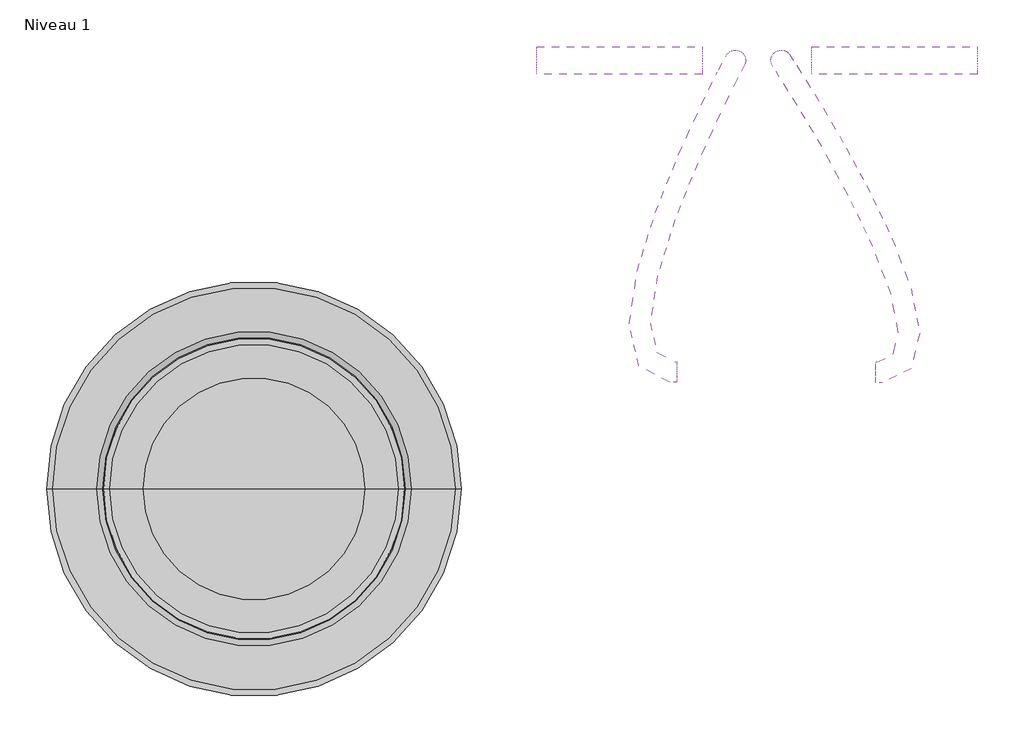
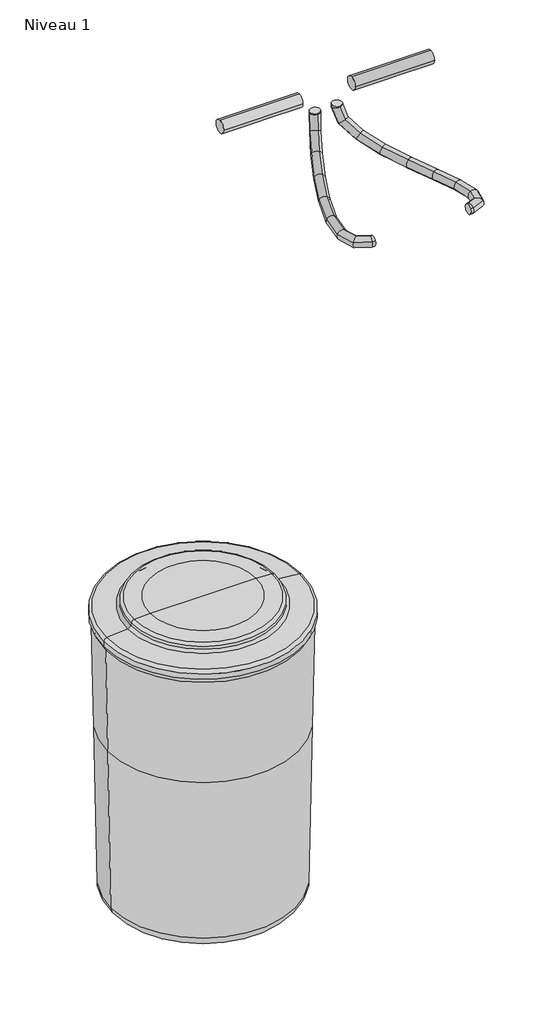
# One storey, incomplete: 4 pipe segments, 1 proxy.
"""IFC4 building model written with IfcOpenShell, lengths in millimetres."""

from ifc_helpers import new_model, si_unit, point, frame, frame_2d, origin, place, context, project, spatial, circle_curve, ellipse_curve, trimmed, segment, composite_curve, outline, extrude, transform, mapped, element, save
from ifc_brep_helpers import plane_surface, cylinder_surface, advanced_brep
from components import proxy_780_x_530_mm_158101ac

model = new_model("IFC4")

# Units and contexts
model_context = context("Model", 3, world=origin())
ifc_project = project(units=[si_unit("LENGTHUNIT", "METRE", prefix="MILLI")], contexts=[model_context])

# Site, building, storey
site = spatial("IfcSite", under=ifc_project)
building = spatial("IfcBuilding", under=site)
storey = spatial("IfcBuildingStorey", under=building, Name="Niveau 1", Elevation=0.0)

# Proxy
placement = place(None, origin())
proxy_780_x_530_mm_shape = proxy_780_x_530_mm_158101ac(model_context)
element("IfcBuildingElementProxy", 1, Name="BWT_Bac à sel type 1 : 780 x 530 mm", ObjectType="BWT_Bac à sel type 1 : 780 x 530 mm", at=placement, inside=storey, context=model_context, shape_type="MappedRepresentation", body=[
    mapped(proxy_780_x_530_mm_shape, transform((17.0911206, -1088.3928891, 0.0), x_axis=(1.0, 0.0, 0.0), y_axis=(0.0, 1.0, 0.0), z_axis=(0.0, 0.0, 1.0))),
])

# Pipe segments
element("IfcPipeSegment", 2, ObjectType="Souple - Circulaire", at=placement, inside=storey, context=model_context, shape_type="AdvancedBrep", body=[
    advanced_brep(
    [(585.819652, -571.1251876, 1557.9427811), (598.319652, -583.6251876, 1557.9427811), (610.819652, -571.1251876, 1557.9427811), (598.319652, -558.6251876, 1557.9427811), (585.819652, -571.1251876, 1554.2978151), (598.319652, -583.6251876, 1555.5389128), (610.819652, -571.1251876, 1551.5888047), (598.319652, -558.6251876, 1550.347707), (527.3866255, -958.6013716, 1469.5910155), (527.3866255, -953.6687392, 1452.6154702), (527.3866255, -936.6931939, 1457.5481026), (527.3866255, -941.6258263, 1474.5236478), (577.9825695, -586.1431844, 1520.1195489), (591.0916235, -597.4760701, 1524.0167894), (601.7711696, -588.4645584, 1512.1275079), (588.6621156, -577.1316727, 1508.2302674), (557.688701, -627.0942536, 1492.836612), (571.8547345, -636.2942566, 1498.1548485), (579.790576, -632.8192763, 1482.5769494), (565.6245425, -623.6192733, 1477.2587129), (530.4368891, -686.7547538, 1475.5955503), (545.3454934, -694.3290981, 1481.3835797), (551.9523785, -693.7635097, 1464.9649064), (537.0437742, -686.1891654, 1459.176877), (502.7269698, -755.9913366, 1466.7328696), (518.2625342, -761.9991452, 1472.7214246), (524.330091, -762.7811338, 1456.1302537), (508.7945265, -756.7733251, 1450.1416987), (480.9439408, -826.0267208, 1464.0145251), (497.1727087, -829.8057864, 1470.0895862), (503.1120652, -830.9999563, 1453.482417), (486.8832972, -827.2208908, 1447.4073558), (471.4880347, -889.0457406, 1465.1329128), (488.4113734, -888.1958296, 1471.1258243), (494.4714182, -888.5856702, 1454.5043808), (477.5480795, -889.4355811, 1448.5114693), (482.7423394, -938.5809834, 1467.9330988), (497.2875007, -927.2636469, 1473.3342955), (502.5984119, -924.3562145, 1456.5264599), (488.0532506, -935.673551, 1451.1252632), (519.164947, -958.6013716, 1469.5910155), (523.416266, -941.6258263, 1474.5236478), (525.0427799, -936.6931939, 1457.5481026), (520.7914609, -953.6687392, 1452.6154702)],
    [
        (0, 1, circle_curve(frame((598.319652, -571.1251876, 1557.9427811), z_axis=(0.0, 0.0, 1.0), x_axis=(-1.0, 0.0, 0.0)), 12.5)),
        (1, 2, circle_curve(frame((598.319652, -571.1251876, 1557.9427811), z_axis=(0.0, 0.0, 1.0), x_axis=(-1.0, 0.0, 0.0)), 12.5)),
        (2, 3, circle_curve(frame((598.319652, -571.1251876, 1557.9427811), z_axis=(0.0, 0.0, 1.0), x_axis=(-1.0, 0.0, 0.0)), 12.5)),
        (3, 0, circle_curve(frame((598.319652, -571.1251876, 1557.9427811), z_axis=(0.0, 0.0, 1.0), x_axis=(-1.0, 0.0, 0.0)), 12.5)),
        (0, 4),
        (4, 5, ellipse_curve(frame((598.319652, -571.1251876, 1552.9433099), z_axis=(0.10550505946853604, 0.20217659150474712, 0.9736494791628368), x_axis=(-0.45044970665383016, -0.8631850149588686, 0.228049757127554)), 12.8382958, 12.5)),
        (5, 1),
        (5, 6, ellipse_curve(frame((598.319652, -571.1251876, 1552.9433099), z_axis=(0.10550505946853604, 0.20217659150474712, 0.9736494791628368), x_axis=(-0.45044970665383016, -0.8631850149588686, 0.228049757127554)), 12.8382958, 12.5)),
        (6, 2),
        (6, 7, ellipse_curve(frame((598.319652, -571.1251876, 1552.9433099), z_axis=(0.10550505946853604, 0.20217659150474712, 0.9736494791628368), x_axis=(-0.45044970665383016, -0.8631850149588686, 0.228049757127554)), 12.8382958, 12.5)),
        (7, 3),
        (7, 4, ellipse_curve(frame((598.319652, -571.1251876, 1552.9433099), z_axis=(0.10550505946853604, 0.20217659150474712, 0.9736494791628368), x_axis=(-0.45044970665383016, -0.8631850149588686, 0.228049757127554)), 12.8382958, 12.5)),
        (8, 9, circle_curve(frame((527.3866255, -947.6472828, 1463.569559), z_axis=(1.0, 0.0, 0.0), x_axis=(0.0, -0.87632710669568, 0.4817165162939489)), 12.5)),
        (9, 10, circle_curve(frame((527.3866255, -947.6472828, 1463.569559), z_axis=(1.0, 0.0, 0.0), x_axis=(0.0, -0.87632710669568, 0.4817165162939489)), 12.5)),
        (10, 11, circle_curve(frame((527.3866255, -947.6472828, 1463.569559), z_axis=(1.0, 0.0, 0.0), x_axis=(0.0, -0.87632710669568, 0.4817165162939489)), 12.5)),
        (11, 8, circle_curve(frame((527.3866255, -947.6472828, 1463.569559), z_axis=(1.0, 0.0, 0.0), x_axis=(0.0, -0.87632710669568, 0.4817165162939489)), 12.5)),
        (4, 12),
        (12, 13, ellipse_curve(frame((589.8768695, -587.3038714, 1516.1235284), z_axis=(0.30580634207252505, 0.6062047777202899, 0.7341650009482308), x_axis=(-0.31126846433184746, -0.6650759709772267, 0.6788121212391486)), 13.0304478, 12.5)),
        (13, 5),
        (13, 14, ellipse_curve(frame((589.8768695, -587.3038714, 1516.1235284), z_axis=(0.30580634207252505, 0.6062047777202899, 0.7341650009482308), x_axis=(-0.31126846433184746, -0.6650759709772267, 0.6788121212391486)), 13.0304478, 12.5)),
        (14, 6),
        (14, 15, ellipse_curve(frame((589.8768695, -587.3038714, 1516.1235284), z_axis=(0.30580634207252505, 0.6062047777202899, 0.7341650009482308), x_axis=(-0.31126846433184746, -0.6650759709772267, 0.6788121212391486)), 13.0304478, 12.5)),
        (15, 7),
        (15, 12, ellipse_curve(frame((589.8768695, -587.3038714, 1516.1235284), z_axis=(0.30580634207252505, 0.6062047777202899, 0.7341650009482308), x_axis=(-0.31126846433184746, -0.6650759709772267, 0.6788121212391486)), 13.0304478, 12.5)),
        (12, 16),
        (16, 17, ellipse_curve(frame((568.7396385, -629.956765, 1487.7067807), z_axis=(0.395493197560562, 0.832836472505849, 0.38725771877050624), x_axis=(-0.07303287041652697, -0.39178296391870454, 0.9171544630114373)), 12.6258506, 12.5)),
        (17, 13),
        (17, 18, ellipse_curve(frame((568.7396385, -629.956765, 1487.7067807), z_axis=(0.395493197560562, 0.832836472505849, 0.38725771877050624), x_axis=(-0.07303287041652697, -0.39178296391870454, 0.9171544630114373)), 12.6258506, 12.5)),
        (18, 14),
        (18, 19, ellipse_curve(frame((568.7396385, -629.956765, 1487.7067807), z_axis=(0.395493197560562, 0.832836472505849, 0.38725771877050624), x_axis=(-0.07303287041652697, -0.39178296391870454, 0.9171544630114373)), 12.6258506, 12.5)),
        (19, 15),
        (19, 16, ellipse_curve(frame((568.7396385, -629.956765, 1487.7067807), z_axis=(0.395493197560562, 0.832836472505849, 0.38725771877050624), x_axis=(-0.07303287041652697, -0.39178296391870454, 0.9171544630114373)), 12.6258506, 12.5)),
        (16, 20),
        (20, 21, ellipse_curve(frame((541.1946338, -690.2591318, 1470.2802283), z_axis=(0.3864398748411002, 0.9032374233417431, 0.18661827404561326), x_axis=(0.22458508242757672, -0.2883990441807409, 0.9307994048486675)), 12.5335971, 12.5)),
        (21, 17),
        (21, 22, ellipse_curve(frame((541.1946338, -690.2591318, 1470.2802283), z_axis=(0.3864398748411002, 0.9032374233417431, 0.18661827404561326), x_axis=(0.22458508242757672, -0.2883990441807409, 0.9307994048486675)), 12.5335971, 12.5)),
        (22, 18),
        (22, 23, ellipse_curve(frame((541.1946338, -690.2591318, 1470.2802283), z_axis=(0.3864398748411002, 0.9032374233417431, 0.18661827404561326), x_axis=(0.22458508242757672, -0.2883990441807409, 0.9307994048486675)), 12.5335971, 12.5)),
        (23, 19),
        (23, 20, ellipse_curve(frame((541.1946338, -690.2591318, 1470.2802283), z_axis=(0.3864398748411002, 0.9032374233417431, 0.18661827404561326), x_axis=(0.22458508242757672, -0.2883990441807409, 0.9307994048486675)), 12.5335971, 12.5)),
        (20, 24),
        (24, 25, ellipse_curve(frame((513.5285304, -759.3862352, 1461.4315617), z_axis=(0.3334154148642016, 0.9395769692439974, 0.07764843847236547), x_axis=(0.6377284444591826, -0.2854265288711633, 0.7154258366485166)), 12.5200643, 12.5)),
        (25, 21),
        (25, 26, ellipse_curve(frame((513.5285304, -759.3862352, 1461.4315617), z_axis=(0.3334154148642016, 0.9395769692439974, 0.07764843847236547), x_axis=(0.6377284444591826, -0.2854265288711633, 0.7154258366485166)), 12.5200643, 12.5)),
        (26, 22),
        (26, 27, ellipse_curve(frame((513.5285304, -759.3862352, 1461.4315617), z_axis=(0.3334154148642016, 0.9395769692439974, 0.07764843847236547), x_axis=(0.6377284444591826, -0.2854265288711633, 0.7154258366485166)), 12.5200643, 12.5)),
        (27, 23),
        (27, 24, ellipse_curve(frame((513.5285304, -759.3862352, 1461.4315617), z_axis=(0.3334154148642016, 0.9395769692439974, 0.07764843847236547), x_axis=(0.6377284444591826, -0.2854265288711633, 0.7154258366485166)), 12.5200643, 12.5)),
        (24, 28),
        (28, 29, ellipse_curve(frame((492.028003, -828.5133386, 1458.748471), z_axis=(0.2233104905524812, 0.9746983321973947, 0.009776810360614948), x_axis=(0.9169149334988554, -0.21345421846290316, 0.33720068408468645)), 12.5411459, 12.5)),
        (29, 25),
        (29, 30, ellipse_curve(frame((492.028003, -828.5133386, 1458.748471), z_axis=(0.2233104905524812, 0.9746983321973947, 0.009776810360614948), x_axis=(0.9169149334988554, -0.21345421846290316, 0.33720068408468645)), 12.5411459, 12.5)),
        (30, 26),
        (30, 31, ellipse_curve(frame((492.028003, -828.5133386, 1458.748471), z_axis=(0.2233104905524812, 0.9746983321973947, 0.009776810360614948), x_axis=(0.9169149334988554, -0.21345421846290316, 0.33720068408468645)), 12.5411459, 12.5)),
        (31, 27),
        (31, 28, ellipse_curve(frame((492.028003, -828.5133386, 1458.748471), z_axis=(0.2233104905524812, 0.9746983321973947, 0.009776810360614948), x_axis=(0.9169149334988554, -0.21345421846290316, 0.33720068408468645)), 12.5411459, 12.5)),
        (28, 32),
        (32, 33, ellipse_curve(frame((482.9797264, -888.8157054, 1459.8186468), z_axis=(-0.03707187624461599, 0.9986296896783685, -0.036938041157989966), x_axis=(0.9940719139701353, 0.04063285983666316, 0.10084642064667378)), 12.721738, 12.5)),
        (33, 29),
        (33, 34, ellipse_curve(frame((482.9797264, -888.8157054, 1459.8186468), z_axis=(-0.03707187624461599, 0.9986296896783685, -0.036938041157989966), x_axis=(0.9940719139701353, 0.04063285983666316, 0.10084642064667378)), 12.721738, 12.5)),
        (34, 30),
        (34, 35, ellipse_curve(frame((482.9797264, -888.8157054, 1459.8186468), z_axis=(-0.03707187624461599, 0.9986296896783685, -0.036938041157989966), x_axis=(0.9940719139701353, 0.04063285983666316, 0.10084642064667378)), 12.721738, 12.5)),
        (35, 31),
        (35, 32, ellipse_curve(frame((482.9797264, -888.8157054, 1459.8186468), z_axis=(-0.03707187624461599, 0.9986296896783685, -0.036938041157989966), x_axis=(0.9940719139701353, 0.04063285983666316, 0.10084642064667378)), 12.721738, 12.5)),
        (32, 36),
        (36, 37, ellipse_curve(frame((492.6703757, -931.468599, 1462.2297794), z_axis=(-0.6011573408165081, 0.7974363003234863, -0.05201152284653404), x_axis=(0.7989606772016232, 0.6010975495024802, -0.01853570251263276)), 13.7018069, 12.5)),
        (37, 33),
        (37, 38, ellipse_curve(frame((492.6703757, -931.468599, 1462.2297794), z_axis=(-0.6011573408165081, 0.7974363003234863, -0.05201152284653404), x_axis=(0.7989606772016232, 0.6010975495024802, -0.01853570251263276)), 13.7018069, 12.5)),
        (38, 34),
        (38, 39, ellipse_curve(frame((492.6703757, -931.468599, 1462.2297794), z_axis=(-0.6011573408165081, 0.7974363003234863, -0.05201152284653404), x_axis=(0.7989606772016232, 0.6010975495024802, -0.01853570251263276)), 13.7018069, 12.5)),
        (39, 35),
        (39, 36, ellipse_curve(frame((492.6703757, -931.468599, 1462.2297794), z_axis=(-0.6011573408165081, 0.7974363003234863, -0.05201152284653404), x_axis=(0.7989606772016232, 0.6010975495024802, -0.01853570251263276)), 13.7018069, 12.5)),
        (36, 40),
        (40, 41, ellipse_curve(frame((522.1038635, -947.6472828, 1463.569559), z_axis=(-0.9684115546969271, 0.2485066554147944, -0.0205791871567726), x_axis=(0.24935729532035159, 0.965107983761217, -0.07992195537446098)), 12.9077353, 12.5)),
        (41, 37),
        (41, 42, ellipse_curve(frame((522.1038635, -947.6472828, 1463.569559), z_axis=(-0.9684115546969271, 0.2485066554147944, -0.0205791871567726), x_axis=(0.24935729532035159, 0.965107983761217, -0.07992195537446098)), 12.9077353, 12.5)),
        (42, 38),
        (42, 43, ellipse_curve(frame((522.1038635, -947.6472828, 1463.569559), z_axis=(-0.9684115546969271, 0.2485066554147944, -0.0205791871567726), x_axis=(0.24935729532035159, 0.965107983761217, -0.07992195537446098)), 12.9077353, 12.5)),
        (43, 39),
        (43, 40, ellipse_curve(frame((522.1038635, -947.6472828, 1463.569559), z_axis=(-0.9684115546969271, 0.2485066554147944, -0.0205791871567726), x_axis=(0.24935729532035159, 0.965107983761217, -0.07992195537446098)), 12.9077353, 12.5)),
        (40, 8),
        (11, 41),
        (10, 42),
        (9, 43),
    ],
    [
        plane_surface(frame((598.319652, -583.6251876, 1557.9427811), z_axis=(0.0, 0.0, 1.0), x_axis=(-1.0, 0.0, 0.0))),
        cylinder_surface(frame((598.319652, -571.1251876, 1557.9427811), z_axis=(0.0, 0.0, 1.0), x_axis=(-1.0, 0.0, 0.0)), 12.5),
        plane_surface(frame((527.3866255, -947.6472828, 1451.069559), z_axis=(1.0, 0.0, 0.0), x_axis=(0.0, 1.0, 0.0))),
        cylinder_surface(frame((598.319652, -571.1251876, 1552.9433099), z_axis=(0.20544989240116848, 0.3936982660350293, 0.8959866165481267), x_axis=(-0.9777373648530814, 0.04266130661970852, 0.20544989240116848)), 12.5),
        cylinder_surface(frame((589.8768695, -587.3038714, 1516.1235284), z_axis=(0.38126505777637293, 0.7693561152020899, 0.5125701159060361), x_axis=(-0.902935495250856, 0.19094224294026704, 0.3850305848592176)), 12.5),
        cylinder_surface(frame((568.7396385, -629.956765, 1487.7067807), z_axis=(0.40183702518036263, 0.8797139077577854, 0.2542251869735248), x_axis=(-0.8641968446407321, 0.27251876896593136, 0.42296256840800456)), 12.5),
        cylinder_surface(frame((541.1946338, -690.2591318, 1470.2802283), z_axis=(0.36897097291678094, 0.9219185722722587, 0.11801087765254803), x_axis=(-0.8573348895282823, 0.28855742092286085, 0.426276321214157)), 12.5),
        cylinder_surface(frame((513.5285304, -759.3862352, 1461.4315617), z_axis=(0.2967912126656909, 0.9542238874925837, 0.03703712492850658), x_axis=(-0.8695865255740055, 0.25403185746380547, 0.4234230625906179)), 12.5),
        cylinder_surface(frame((492.028003, -828.5133386, 1458.748471), z_axis=(0.14836446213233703, 0.9887770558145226, -0.017547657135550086), x_axis=(-0.8952924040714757, 0.14183167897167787, 0.42229762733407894)), 12.5),
        cylinder_surface(frame((482.9797264, -888.8157054, 1459.8186468), z_axis=(-0.2212159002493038, 0.9736703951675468, -0.05504077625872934), x_axis=(-0.8834865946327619, -0.17618923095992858, 0.43406081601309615)), 12.5),
        cylinder_surface(frame((492.6703757, -931.468599, 1462.2297794), z_axis=(-0.8756418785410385, 0.48131343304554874, -0.03985824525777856), x_axis=(-0.4409883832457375, -0.7631639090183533, 0.47234531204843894)), 12.5),
        cylinder_surface(frame((522.1038635, -947.6472828, 1463.569559), z_axis=(-1.0, 0.0, 0.0), x_axis=(0.0, -0.87632710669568, 0.4817165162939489)), 12.5),
    ],
    [
        (0, [[1, 2, 3, 4]]),
        (1, [[-1, 5, 6, 7]]),
        (1, [[-2, -7, 8, 9]]),
        (1, [[-3, -9, 10, 11]]),
        (1, [[-4, -11, 12, -5]]),
        (2, [[13, 14, 15, 16]]),
        (3, [[-6, 17, 18, 19]]),
        (3, [[-8, -19, 20, 21]]),
        (3, [[-10, -21, 22, 23]]),
        (3, [[-12, -23, 24, -17]]),
        (4, [[-18, 25, 26, 27]]),
        (4, [[-20, -27, 28, 29]]),
        (4, [[-22, -29, 30, 31]]),
        (4, [[-24, -31, 32, -25]]),
        (5, [[-26, 33, 34, 35]]),
        (5, [[-28, -35, 36, 37]]),
        (5, [[-30, -37, 38, 39]]),
        (5, [[-32, -39, 40, -33]]),
        (6, [[-34, 41, 42, 43]]),
        (6, [[-36, -43, 44, 45]]),
        (6, [[-38, -45, 46, 47]]),
        (6, [[-40, -47, 48, -41]]),
        (7, [[-42, 49, 50, 51]]),
        (7, [[-44, -51, 52, 53]]),
        (7, [[-46, -53, 54, 55]]),
        (7, [[-48, -55, 56, -49]]),
        (8, [[-50, 57, 58, 59]]),
        (8, [[-52, -59, 60, 61]]),
        (8, [[-54, -61, 62, 63]]),
        (8, [[-56, -63, 64, -57]]),
        (9, [[-58, 65, 66, 67]]),
        (9, [[-60, -67, 68, 69]]),
        (9, [[-62, -69, 70, 71]]),
        (9, [[-64, -71, 72, -65]]),
        (10, [[-66, 73, 74, 75]]),
        (10, [[-68, -75, 76, 77]]),
        (10, [[-70, -77, 78, 79]]),
        (10, [[-72, -79, 80, -73]]),
        (11, [[-74, 81, -16, 82]]),
        (11, [[-76, -82, -15, 83]]),
        (11, [[-78, -83, -14, 84]]),
        (11, [[-80, -84, -13, -81]]),
    ],
),
])
element("IfcPipeSegment", 3, ObjectType="Souple - Circulaire", at=placement, inside=storey, context=model_context, shape_type="AdvancedBrep", body=[
    advanced_brep(
    [(641.3076562, -571.1251876, 1557.88203), (653.8076562, -583.6251876, 1557.88203), (666.3076562, -571.1251876, 1557.88203), (653.8076562, -558.6251876, 1557.88203), (641.3076562, -571.1251876, 1551.8102967), (653.8076562, -583.6251876, 1555.5246367), (666.3076562, -571.1251876, 1554.7307378), (653.8076562, -558.6251876, 1551.0163978), (768.2256275, -937.4808132, 1456.2968087), (768.2256275, -954.9200331, 1453.4030895), (768.2256275, -957.8137523, 1470.8423093), (768.2256275, -940.3745324, 1473.7360285), (650.4123362, -585.1799387, 1514.6397066), (660.9919589, -594.7154826, 1526.1941416), (673.9321491, -582.8949972, 1523.6031307), (663.3525264, -573.3594533, 1512.0486958), (673.2202432, -621.6900105, 1485.5821331), (680.5610101, -626.0409111, 1501.262913), (694.3597419, -615.5947481, 1497.5781088), (687.018975, -611.2438475, 1481.8973289), (703.4427427, -672.7451317, 1467.1368313), (708.9841865, -674.0564207, 1483.9157685), (723.4510406, -664.7389224, 1479.823198), (717.9095969, -663.4276334, 1463.0442608), (736.0728417, -732.4123717, 1456.6522186), (740.7377556, -732.1208426, 1473.7128), (755.7850102, -723.8646617, 1469.4337368), (751.1200963, -724.1561908, 1452.3731555), (766.0475685, -794.6618646, 1452.1180432), (770.3001244, -793.5139782, 1469.2410005), (785.9965937, -786.6060427, 1464.8637328), (781.7440378, -787.7539291, 1447.7407755), (788.1618711, -853.0654507, 1451.6802218), (792.3032075, -851.623835, 1468.8053811), (808.8628149, -846.9954359, 1464.4110249), (804.7214785, -848.4370516, 1447.2858657), (797.2682086, -900.2284385, 1453.4532599), (801.5284044, -899.4024123, 1470.6015615), (819.1031864, -900.0317436, 1466.4048636), (814.8429906, -900.8577698, 1449.256562), (790.6061142, -927.8131629, 1455.3934975), (794.2740893, -929.4392554, 1472.7142748), (809.0501465, -941.6568419, 1469.3326645), (805.3821715, -940.0307494, 1452.0118873), (770.4865118, -937.4808132, 1456.2968087), (771.5163956, -940.3745324, 1473.7360285), (775.4255739, -957.8137523, 1470.8423093), (774.3956901, -954.9200331, 1453.4030895)],
    [
        (0, 1, circle_curve(frame((653.8076562, -571.1251876, 1557.88203), z_axis=(0.0, 0.0, 1.0), x_axis=(-1.0, 0.0, 0.0)), 12.5)),
        (1, 2, circle_curve(frame((653.8076562, -571.1251876, 1557.88203), z_axis=(0.0, 0.0, 1.0), x_axis=(-1.0, 0.0, 0.0)), 12.5)),
        (2, 3, circle_curve(frame((653.8076562, -571.1251876, 1557.88203), z_axis=(0.0, 0.0, 1.0), x_axis=(-1.0, 0.0, 0.0)), 12.5)),
        (3, 0, circle_curve(frame((653.8076562, -571.1251876, 1557.88203), z_axis=(0.0, 0.0, 1.0), x_axis=(-1.0, 0.0, 0.0)), 12.5)),
        (0, 4),
        (4, 5, ellipse_curve(frame((653.8076562, -571.1251876, 1553.2705172), z_axis=(-0.1142111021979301, 0.17630587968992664, 0.9776870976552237), x_axis=(0.5315588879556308, -0.8205590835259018, 0.21006651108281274)), 12.7852766, 12.5)),
        (5, 1),
        (5, 6, ellipse_curve(frame((653.8076562, -571.1251876, 1553.2705172), z_axis=(-0.1142111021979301, 0.17630587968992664, 0.9776870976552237), x_axis=(0.5315588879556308, -0.8205590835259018, 0.21006651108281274)), 12.7852766, 12.5)),
        (6, 2),
        (6, 7, ellipse_curve(frame((653.8076562, -571.1251876, 1553.2705172), z_axis=(-0.1142111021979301, 0.17630587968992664, 0.9776870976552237), x_axis=(0.5315588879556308, -0.8205590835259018, 0.21006651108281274)), 12.7852766, 12.5)),
        (7, 3),
        (7, 4, ellipse_curve(frame((653.8076562, -571.1251876, 1553.2705172), z_axis=(-0.1142111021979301, 0.17630587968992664, 0.9776870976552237), x_axis=(0.5315588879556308, -0.8205590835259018, 0.21006651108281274)), 12.7852766, 12.5)),
        (8, 9, circle_curve(frame((768.2256275, -947.6472828, 1463.569559), z_axis=(-1.0, 0.0, 0.0), x_axis=(0.0, 0.8133175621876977, -0.5818200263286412)), 12.5)),
        (9, 10, circle_curve(frame((768.2256275, -947.6472828, 1463.569559), z_axis=(-1.0, 0.0, 0.0), x_axis=(0.0, 0.8133175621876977, -0.5818200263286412)), 12.5)),
        (10, 11, circle_curve(frame((768.2256275, -947.6472828, 1463.569559), z_axis=(-1.0, 0.0, 0.0), x_axis=(0.0, 0.8133175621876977, -0.5818200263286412)), 12.5)),
        (11, 8, circle_curve(frame((768.2256275, -947.6472828, 1463.569559), z_axis=(-1.0, 0.0, 0.0), x_axis=(0.0, 0.8133175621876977, -0.5818200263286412)), 12.5)),
        (4, 12),
        (12, 13, ellipse_curve(frame((662.1722427, -584.0374679, 1519.1214187), z_axis=(-0.34435211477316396, 0.5446002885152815, 0.7647431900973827), x_axis=(0.3946850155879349, -0.6551100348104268, 0.6442472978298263)), 12.995109, 12.5)),
        (13, 5),
        (13, 14, ellipse_curve(frame((662.1722427, -584.0374679, 1519.1214187), z_axis=(-0.34435211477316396, 0.5446002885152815, 0.7647431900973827), x_axis=(0.3946850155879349, -0.6551100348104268, 0.6442472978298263)), 12.995109, 12.5)),
        (14, 6),
        (14, 15, ellipse_curve(frame((662.1722427, -584.0374679, 1519.1214187), z_axis=(-0.34435211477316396, 0.5446002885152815, 0.7647431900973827), x_axis=(0.3946850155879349, -0.6551100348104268, 0.6442472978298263)), 12.995109, 12.5)),
        (15, 7),
        (15, 12, ellipse_curve(frame((662.1722427, -584.0374679, 1519.1214187), z_axis=(-0.34435211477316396, 0.5446002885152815, 0.7647431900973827), x_axis=(0.3946850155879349, -0.6551100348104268, 0.6442472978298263)), 12.995109, 12.5)),
        (12, 16),
        (16, 17, ellipse_curve(frame((683.7899925, -618.6423793, 1491.5801209), z_axis=(-0.467800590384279, 0.7706070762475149, 0.43281328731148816), x_axis=(0.16192923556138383, -0.4066837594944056, 0.8991035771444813)), 12.6354493, 12.5)),
        (17, 13),
        (17, 18, ellipse_curve(frame((683.7899925, -618.6423793, 1491.5801209), z_axis=(-0.467800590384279, 0.7706070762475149, 0.43281328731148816), x_axis=(0.16192923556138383, -0.4066837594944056, 0.8991035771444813)), 12.6354493, 12.5)),
        (18, 14),
        (18, 19, ellipse_curve(frame((683.7899925, -618.6423793, 1491.5801209), z_axis=(-0.467800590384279, 0.7706070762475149, 0.43281328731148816), x_axis=(0.16192923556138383, -0.4066837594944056, 0.8991035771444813)), 12.6354493, 12.5)),
        (19, 15),
        (19, 16, ellipse_curve(frame((683.7899925, -618.6423793, 1491.5801209), z_axis=(-0.467800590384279, 0.7706070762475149, 0.43281328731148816), x_axis=(0.16192923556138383, -0.4066837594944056, 0.8991035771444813)), 12.6354493, 12.5)),
        (16, 20),
        (20, 21, ellipse_curve(frame((713.4468917, -668.7420271, 1473.4800146), z_axis=(-0.4817112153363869, 0.8468797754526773, 0.2252752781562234), x_axis=(-0.0804622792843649, -0.2987238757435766, 0.9509415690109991)), 12.5362393, 12.5)),
        (21, 17),
        (21, 22, ellipse_curve(frame((713.4468917, -668.7420271, 1473.4800146), z_axis=(-0.4817112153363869, 0.8468797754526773, 0.2252752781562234), x_axis=(-0.0804622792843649, -0.2987238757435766, 0.9509415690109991)), 12.5362393, 12.5)),
        (22, 18),
        (22, 23, ellipse_curve(frame((713.4468917, -668.7420271, 1473.4800146), z_axis=(-0.4817112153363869, 0.8468797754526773, 0.2252752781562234), x_axis=(-0.0804622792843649, -0.2987238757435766, 0.9509415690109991)), 12.5362393, 12.5)),
        (23, 19),
        (23, 20, ellipse_curve(frame((713.4468917, -668.7420271, 1473.4800146), z_axis=(-0.4817112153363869, 0.8468797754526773, 0.2252752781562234), x_axis=(-0.0804622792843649, -0.2987238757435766, 0.9509415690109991)), 12.5362393, 12.5)),
        (20, 24),
        (24, 25, ellipse_curve(frame((745.9289259, -728.1385167, 1463.0429777), z_axis=(-0.4541444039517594, 0.8842267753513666, 0.10906819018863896), x_axis=(-0.4073666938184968, -0.3149647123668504, 0.8572336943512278)), 12.5160821, 12.5)),
        (25, 21),
        (25, 26, ellipse_curve(frame((745.9289259, -728.1385167, 1463.0429777), z_axis=(-0.4541444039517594, 0.8842267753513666, 0.10906819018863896), x_axis=(-0.4073666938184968, -0.3149647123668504, 0.8572336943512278)), 12.5160821, 12.5)),
        (26, 22),
        (26, 27, ellipse_curve(frame((745.9289259, -728.1385167, 1463.0429777), z_axis=(-0.4541444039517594, 0.8842267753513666, 0.10906819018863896), x_axis=(-0.4073666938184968, -0.3149647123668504, 0.8572336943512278)), 12.5160821, 12.5)),
        (27, 23),
        (27, 24, ellipse_curve(frame((745.9289259, -728.1385167, 1463.0429777), z_axis=(-0.4541444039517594, 0.8842267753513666, 0.10906819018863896), x_axis=(-0.4073666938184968, -0.3149647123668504, 0.8572336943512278)), 12.5160821, 12.5)),
        (24, 28),
        (28, 29, ellipse_curve(frame((776.0220811, -790.6339536, 1458.490888), z_axis=(-0.394048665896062, 0.9183725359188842, 0.036297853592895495), x_axis=(-0.7536494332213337, -0.34547085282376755, 0.5591622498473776)), 12.517123, 12.5)),
        (29, 25),
        (29, 30, ellipse_curve(frame((776.0220811, -790.6339536, 1458.490888), z_axis=(-0.394048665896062, 0.9183725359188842, 0.036297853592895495), x_axis=(-0.7536494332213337, -0.34547085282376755, 0.5591622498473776)), 12.517123, 12.5)),
        (30, 26),
        (30, 31, ellipse_curve(frame((776.0220811, -790.6339536, 1458.490888), z_axis=(-0.394048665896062, 0.9183725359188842, 0.036297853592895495), x_axis=(-0.7536494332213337, -0.34547085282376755, 0.5591622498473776)), 12.517123, 12.5)),
        (31, 27),
        (31, 28, ellipse_curve(frame((776.0220811, -790.6339536, 1458.490888), z_axis=(-0.394048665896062, 0.9183725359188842, 0.036297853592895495), x_axis=(-0.7536494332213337, -0.34547085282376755, 0.5591622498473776)), 12.517123, 12.5)),
        (28, 32),
        (32, 33, ellipse_curve(frame((798.512343, -850.0304433, 1458.0456234), z_axis=(-0.27284176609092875, 0.9619420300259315, -0.014996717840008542), x_axis=(-0.9328334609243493, -0.26070823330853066, 0.248702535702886)), 12.548965, 12.5)),
        (33, 29),
        (33, 34, ellipse_curve(frame((798.512343, -850.0304433, 1458.0456234), z_axis=(-0.27284176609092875, 0.9619420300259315, -0.014996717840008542), x_axis=(-0.9328334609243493, -0.26070823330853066, 0.248702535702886)), 12.548965, 12.5)),
        (34, 30),
        (34, 35, ellipse_curve(frame((798.512343, -850.0304433, 1458.0456234), z_axis=(-0.27284176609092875, 0.9619420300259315, -0.014996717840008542), x_axis=(-0.9328334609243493, -0.26070823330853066, 0.248702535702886)), 12.548965, 12.5)),
        (35, 31),
        (35, 32, ellipse_curve(frame((798.512343, -850.0304433, 1458.0456234), z_axis=(-0.27284176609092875, 0.9619420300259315, -0.014996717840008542), x_axis=(-0.9328334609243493, -0.26070823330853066, 0.248702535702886)), 12.548965, 12.5)),
        (32, 36),
        (36, 37, ellipse_curve(frame((808.1856975, -900.1300911, 1459.9290618), z_axis=(0.022905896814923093, 0.9982901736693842, -0.0537777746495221), x_axis=(-0.9969182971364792, 0.026845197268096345, 0.07371054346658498)), 12.792129, 12.5)),
        (37, 33),
        (37, 38, ellipse_curve(frame((808.1856975, -900.1300911, 1459.9290618), z_axis=(0.022905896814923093, 0.9982901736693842, -0.0537777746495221), x_axis=(-0.9969182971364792, 0.026845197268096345, 0.07371054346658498)), 12.792129, 12.5)),
        (38, 34),
        (38, 39, ellipse_curve(frame((808.1856975, -900.1300911, 1459.9290618), z_axis=(0.022905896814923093, 0.9982901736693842, -0.0537777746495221), x_axis=(-0.9969182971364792, 0.026845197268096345, 0.07371054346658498)), 12.792129, 12.5)),
        (39, 35),
        (39, 36, ellipse_curve(frame((808.1856975, -900.1300911, 1459.9290618), z_axis=(0.022905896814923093, 0.9982901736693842, -0.0537777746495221), x_axis=(-0.9969182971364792, 0.026845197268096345, 0.07371054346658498)), 12.792129, 12.5)),
        (36, 40),
        (40, 41, ellipse_curve(frame((799.8281304, -934.7350024, 1462.363081), z_axis=(0.6278719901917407, 0.7759918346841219, -0.06011186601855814), x_axis=(-0.7782158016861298, 0.6271585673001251, -0.032439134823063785)), 13.8319218, 12.5)),
        (41, 37),
        (41, 42, ellipse_curve(frame((799.8281304, -934.7350024, 1462.363081), z_axis=(0.6278719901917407, 0.7759918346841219, -0.06011186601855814), x_axis=(-0.7782158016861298, 0.6271585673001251, -0.032439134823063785)), 13.8319218, 12.5)),
        (42, 38),
        (42, 43, ellipse_curve(frame((799.8281304, -934.7350024, 1462.363081), z_axis=(0.6278719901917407, 0.7759918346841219, -0.06011186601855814), x_axis=(-0.7782158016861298, 0.6271585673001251, -0.032439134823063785)), 13.8319218, 12.5)),
        (43, 39),
        (43, 40, ellipse_curve(frame((799.8281304, -934.7350024, 1462.363081), z_axis=(0.6278719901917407, 0.7759918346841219, -0.06011186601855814), x_axis=(-0.7782158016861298, 0.6271585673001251, -0.032439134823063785)), 13.8319218, 12.5)),
        (40, 44),
        (44, 45, ellipse_curve(frame((772.9560429, -947.6472828, 1463.569559), z_axis=(0.974835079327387, 0.22196047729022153, -0.020739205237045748), x_axis=(-0.22292727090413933, 0.9706074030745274, -0.09069013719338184)), 12.8226818, 12.5)),
        (45, 41),
        (45, 46, ellipse_curve(frame((772.9560429, -947.6472828, 1463.569559), z_axis=(0.974835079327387, 0.22196047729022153, -0.020739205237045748), x_axis=(-0.22292727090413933, 0.9706074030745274, -0.09069013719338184)), 12.8226818, 12.5)),
        (46, 42),
        (46, 47, ellipse_curve(frame((772.9560429, -947.6472828, 1463.569559), z_axis=(0.974835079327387, 0.22196047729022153, -0.020739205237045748), x_axis=(-0.22292727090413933, 0.9706074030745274, -0.09069013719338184)), 12.8226818, 12.5)),
        (47, 43),
        (47, 44, ellipse_curve(frame((772.9560429, -947.6472828, 1463.569559), z_axis=(0.974835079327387, 0.22196047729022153, -0.020739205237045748), x_axis=(-0.22292727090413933, 0.9706074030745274, -0.09069013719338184)), 12.8226818, 12.5)),
        (44, 8),
        (11, 45),
        (10, 46),
        (9, 47),
    ],
    [
        plane_surface(frame((653.8076562, -583.6251876, 1557.88203), z_axis=(0.0, 0.0, 1.0), x_axis=(-1.0, 0.0, 0.0))),
        cylinder_surface(frame((653.8076562, -571.1251876, 1557.88203), z_axis=(0.0, 0.0, 1.0), x_axis=(-1.0, 0.0, 0.0)), 12.5),
        plane_surface(frame((768.2256275, -947.6472828, 1451.069559), z_axis=(-1.0, 0.0, 0.0), x_axis=(0.0, -1.0, 0.0))),
        cylinder_surface(frame((653.8076562, -571.1251876, 1553.2705172), z_axis=(-0.22332544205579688, 0.34474396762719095, 0.9117441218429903), x_axis=(-0.973911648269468, -0.04027217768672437, -0.22332544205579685)), 12.5),
        cylinder_surface(frame((662.1722427, -584.0374679, 1519.1214187), z_axis=(-0.43913940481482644, 0.7029584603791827, 0.5594693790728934), x_axis=(-0.8756682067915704, -0.19564629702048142, -0.44150619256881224)), 12.5),
        cylinder_surface(frame((683.7899925, -618.6423793, 1491.5801209), z_axis=(-0.48643233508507, 0.8217342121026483, 0.29687786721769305), x_axis=(-0.8122513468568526, -0.30011277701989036, -0.5001800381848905)), 12.5),
        cylinder_surface(frame((713.4468917, -668.7420271, 1473.4800146), z_axis=(-0.47420507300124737, 0.8671290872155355, 0.15237025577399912), x_axis=(-0.7887120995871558, -0.3414963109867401, -0.5111883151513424)), 12.5),
        cylinder_surface(frame((745.9289259, -728.1385167, 1463.0429777), z_axis=(-0.4329166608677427, 0.8990521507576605, 0.06548583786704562), x_axis=(-0.7882810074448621, -0.3423356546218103, -0.5112918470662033)), 12.5),
        cylinder_surface(frame((776.0220811, -790.6339536, 1458.490888), z_axis=(-0.3541025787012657, 0.9351803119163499, 0.007010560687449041), x_axis=(-0.8058787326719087, -0.3013222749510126, -0.5096708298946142)), 12.5),
        cylinder_surface(frame((798.512343, -850.0304433, 1458.0456234), z_axis=(-0.18945174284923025, 0.9811969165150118, -0.036886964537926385), x_axis=(-0.8398932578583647, -0.181399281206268, -0.5115404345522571)), 12.5),
        cylinder_surface(frame((808.1856975, -900.1300911, 1459.9290618), z_axis=(0.23421734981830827, 0.9697882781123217, -0.06821237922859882), x_axis=(-0.8319761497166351, 0.16364598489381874, -0.530127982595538)), 12.5),
        cylinder_surface(frame((799.8281304, -934.7350024, 1462.363081), z_axis=(0.9006068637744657, 0.43274971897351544, -0.04043460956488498), x_axis=(-0.3754886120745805, 0.7278224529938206, -0.5738316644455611)), 12.5),
        cylinder_surface(frame((772.9560429, -947.6472828, 1463.569559), z_axis=(1.0, 0.0, 0.0), x_axis=(0.0, 0.8133175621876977, -0.5818200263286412)), 12.5),
    ],
    [
        (0, [[1, 2, 3, 4]]),
        (1, [[-1, 5, 6, 7]]),
        (1, [[-2, -7, 8, 9]]),
        (1, [[-3, -9, 10, 11]]),
        (1, [[-4, -11, 12, -5]]),
        (2, [[13, 14, 15, 16]]),
        (3, [[-6, 17, 18, 19]]),
        (3, [[-8, -19, 20, 21]]),
        (3, [[-10, -21, 22, 23]]),
        (3, [[-12, -23, 24, -17]]),
        (4, [[-18, 25, 26, 27]]),
        (4, [[-20, -27, 28, 29]]),
        (4, [[-22, -29, 30, 31]]),
        (4, [[-24, -31, 32, -25]]),
        (5, [[-26, 33, 34, 35]]),
        (5, [[-28, -35, 36, 37]]),
        (5, [[-30, -37, 38, 39]]),
        (5, [[-32, -39, 40, -33]]),
        (6, [[-34, 41, 42, 43]]),
        (6, [[-36, -43, 44, 45]]),
        (6, [[-38, -45, 46, 47]]),
        (6, [[-40, -47, 48, -41]]),
        (7, [[-42, 49, 50, 51]]),
        (7, [[-44, -51, 52, 53]]),
        (7, [[-46, -53, 54, 55]]),
        (7, [[-48, -55, 56, -49]]),
        (8, [[-50, 57, 58, 59]]),
        (8, [[-52, -59, 60, 61]]),
        (8, [[-54, -61, 62, 63]]),
        (8, [[-56, -63, 64, -57]]),
        (9, [[-58, 65, 66, 67]]),
        (9, [[-60, -67, 68, 69]]),
        (9, [[-62, -69, 70, 71]]),
        (9, [[-64, -71, 72, -65]]),
        (10, [[-66, 73, 74, 75]]),
        (10, [[-68, -75, 76, 77]]),
        (10, [[-70, -77, 78, 79]]),
        (10, [[-72, -79, 80, -73]]),
        (11, [[-74, 81, 82, 83]]),
        (11, [[-76, -83, 84, 85]]),
        (11, [[-78, -85, 86, 87]]),
        (11, [[-80, -87, 88, -81]]),
        (12, [[-82, 89, -16, 90]]),
        (12, [[-84, -90, -15, 91]]),
        (12, [[-86, -91, -14, 92]]),
        (12, [[-88, -92, -13, -89]]),
    ],
),
])
element("IfcPipeSegment", 4, ObjectType="Standard", at=placement, inside=storey, context=model_context, shape_type="SweptSolid", body=[
    extrude(outline(composite_curve([segment(trimmed(circle_curve(frame_2d((-571.1251876, 1599.5)), 16.7005), [point((-554.4246876, 1599.5))], [point((-571.1251876, 1582.7995))], False, "CARTESIAN"), True, "CONTINUOUS"), segment(trimmed(circle_curve(frame_2d((-571.1251876, 1599.5)), 16.7005), [point((-571.1251876, 1582.7995))], [point((-587.8256876, 1599.5))], False, "CARTESIAN"), True, "CONTINUOUS"), segment(trimmed(circle_curve(frame_2d((-571.1251876, 1599.5)), 16.7005), [point((-587.8256876, 1599.5))], [point((-571.1251876, 1616.2005))], False, "CARTESIAN"), True, "CONTINUOUS"), segment(trimmed(circle_curve(frame_2d((-571.1251876, 1599.5)), 16.7005), [point((-571.1251876, 1616.2005))], [point((-554.4246876, 1599.5))], False, "CARTESIAN"), True, "CONTINUOUS")], self_intersect=False)), frame((358.5541934, 0.0, 0.0), z_axis=(1.0, 0.0, 0.0), x_axis=(0.0, 1.0, 0.0)), (0.0, 0.0, 1.0), 200.0),
])
element("IfcPipeSegment", 5, ObjectType="Standard", at=placement, inside=storey, context=model_context, shape_type="SweptSolid", body=[
    extrude(outline(composite_curve([segment(trimmed(circle_curve(frame_2d((-571.1251876, 1599.5)), 16.7005), [point((-587.8256876, 1599.5))], [point((-571.1251876, 1616.2005))], False, "CARTESIAN"), True, "CONTINUOUS"), segment(trimmed(circle_curve(frame_2d((-571.1251876, 1599.5)), 16.7005), [point((-571.1251876, 1616.2005))], [point((-554.4246876, 1599.5))], False, "CARTESIAN"), True, "CONTINUOUS"), segment(trimmed(circle_curve(frame_2d((-571.1251876, 1599.5)), 16.7005), [point((-554.4246876, 1599.5))], [point((-571.1251876, 1582.7995))], False, "CARTESIAN"), True, "CONTINUOUS"), segment(trimmed(circle_curve(frame_2d((-571.1251876, 1599.5)), 16.7005), [point((-571.1251876, 1582.7995))], [point((-587.8256876, 1599.5))], False, "CARTESIAN"), True, "CONTINUOUS")], self_intersect=False)), frame((690.8041934, 0.0, 0.0), z_axis=(1.0, 0.0, 0.0), x_axis=(0.0, 1.0, 0.0)), (0.0, 0.0, 1.0), 200.0),
])

save(model, "model.ifc")
